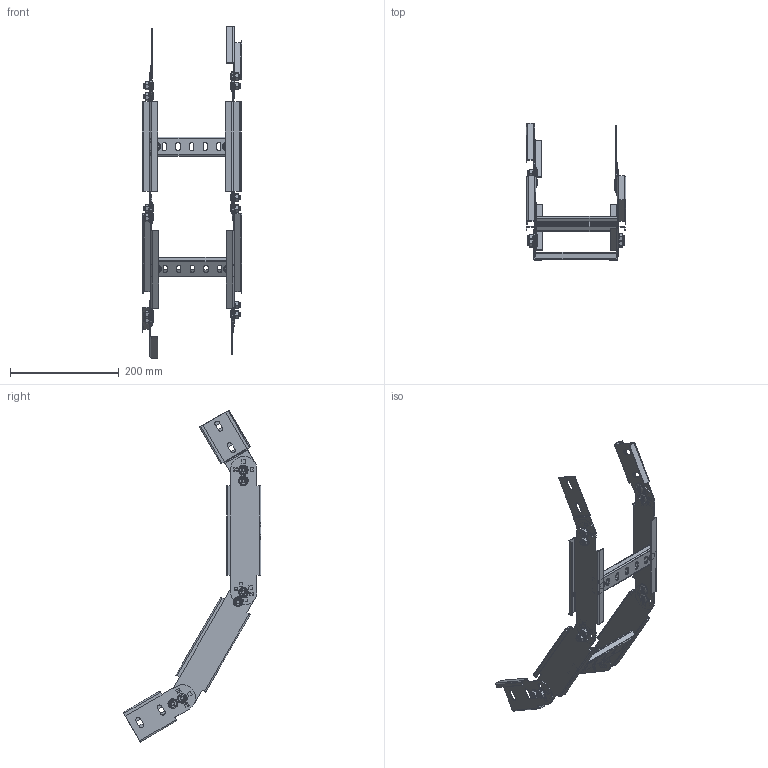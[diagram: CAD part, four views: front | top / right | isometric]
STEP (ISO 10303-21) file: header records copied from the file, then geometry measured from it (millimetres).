
FILE_DESCRIPTION (( 'STEP AP214' ), '1' );
FILE_NAME ('CCXFER 150x60 GS.STEP', '2023-06-28T13:22:32', ( '' ), ( '' ), 'SwSTEP 2.0', 'SolidWorks 2022', '' );
FILE_SCHEMA (( 'AUTOMOTIVE_DESIGN' ));
Length unit declared in the file: millimetre
Products named in the file (8): Tuerca M8 DIN 6923_M8; FER_lateral_extremo_CCX_63; FER_lateral_extremo_plano_CCX_63; tornillo B2 M8x15_RENDER_M6x14; CCXFER 150x60 GS; CCXFER_Tramo_63; Travesaño RAT35 FER GS_150; FER_lateral_CCX_pieza1_63
Assembly tree (33 placements, depth 3):
  CCXFER 150x60 GS
    CCXFER_Tramo_63  x2
      Travesaño RAT35 FER GS_150
      FER_lateral_CCX_pieza1_63
    FER_lateral_extremo_CCX_63  x2
    FER_lateral_extremo_plano_CCX_63  x2
    tornillo B2 M8x15_RENDER_M6x14  x12
    Tuerca M8 DIN 6923_M8  x12
Bounding box: 183.5 x 253.28 x 610.42 mm (x, y, z)
Volume: 220449.5 mm3; surface area: 296382.3 mm2
Topology: 34 solids, 34 shells, 2940 faces, 6968 edges, 4128 vertices
Faces by surface type: plane 1100, cone 600, torus 536, cylinder 512, sphere 96, bspline 96
Entity records: 15473 total; most frequent: CARTESIAN_POINT 3537, DIRECTION 2479, ORIENTED_EDGE 2336, EDGE_CURVE 1168, AXIS2_PLACEMENT_3D 876, VECTOR 727, LINE 727, VERTEX_POINT 708
